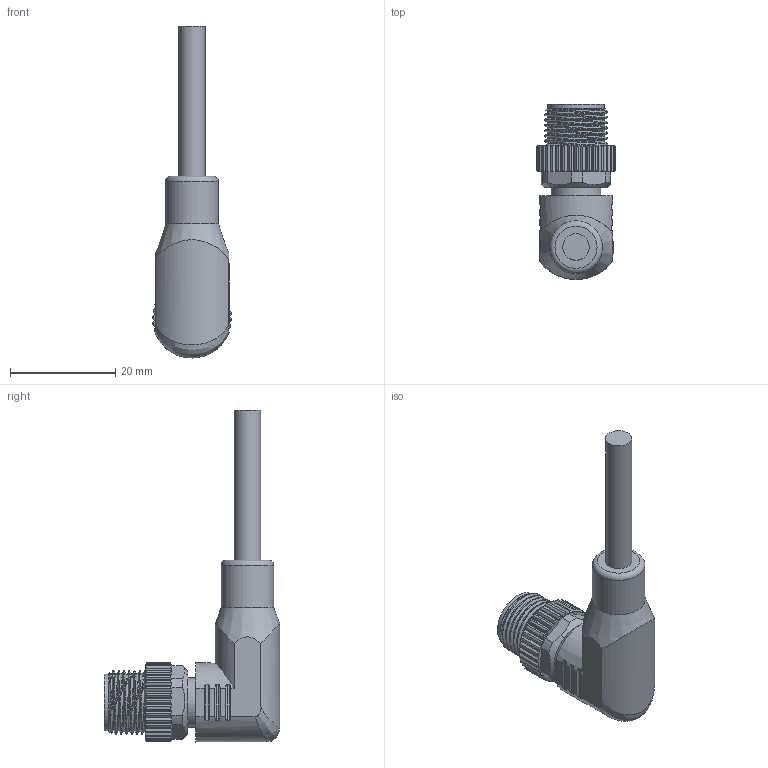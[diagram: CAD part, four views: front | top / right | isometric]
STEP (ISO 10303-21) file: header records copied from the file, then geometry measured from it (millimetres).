
FILE_DESCRIPTION(/* description */ (''),/* implementation_level */ '2;1');
FILE_NAME(/* name */ 'M12D-4MR.P-L.stp',/* time_stamp */ '2021-08-20T16:39:27+08:00',/* author */ (''),/* organization */ (''),/* preprocessor_version */ 'ST-DEVELOPER v16.7',/* originating_system */ 'SIEMENS PLM Software NX 12.0',/* authorisation */ '');
FILE_SCHEMA (('AP203_CONFIGURATION_CONTROLLED_3D_DESIGN_OF_MECHANICAL_PARTS_AND_ASSEMBLIES_MIM_LF { 1 0 10303 403 2 1 2}'));
Length unit declared in the file: millimetre
Products named in the file (1): Admi4C4410C547y7
Bounding box: 15 x 33.25 x 63 mm (x, y, z)
Volume: 6981.8 mm3; surface area: 4901 mm2
Topology: 1 solids, 13 shells, 510 faces, 1407 edges, 935 vertices
Faces by surface type: plane 208, cylinder 172, cone 100, extrusion 16, sphere 8, bspline 5, torus 1
Full cylindrical faces by diameter (mm): 2.1 x13, 5 x1, 8.3 x1, 9.4 x1, 9.5 x1, 10 x1, 10.8 x1
Entity records: 18697 total; most frequent: CARTESIAN_POINT 5913, ORIENTED_EDGE 2720, DIRECTION 2513, EDGE_CURVE 1360, AXIS2_PLACEMENT_3D 920, VERTEX_POINT 919, VECTOR 673, LINE 657
